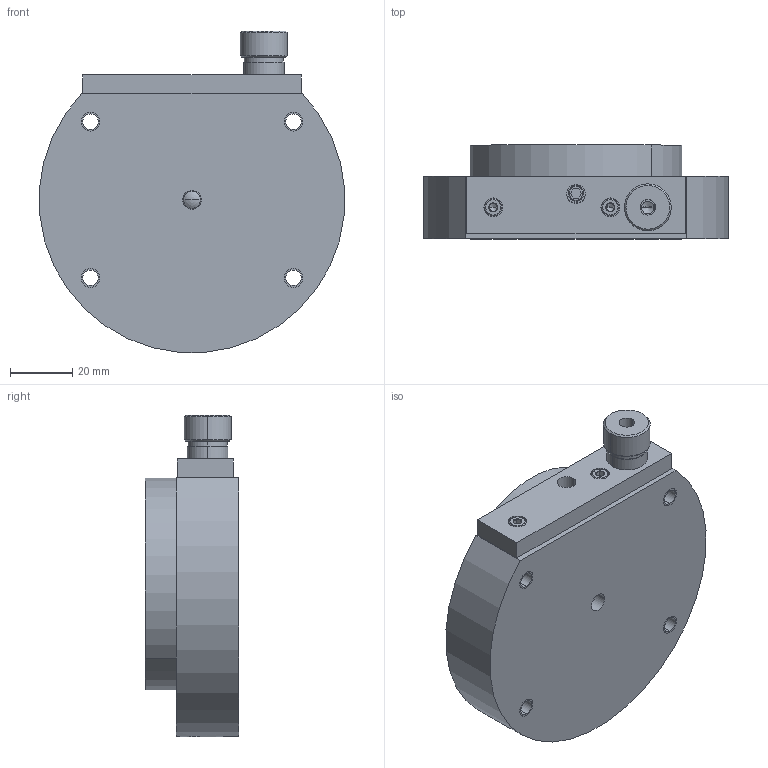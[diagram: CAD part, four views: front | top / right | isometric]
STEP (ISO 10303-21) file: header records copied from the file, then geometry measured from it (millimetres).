
FILE_DESCRIPTION((''),'2;1');
FILE_NAME('DREHMODUL_ASM','2006-12-05T',('Rudolf Kaufmann'),(''),'PRO/ENGINEER BY PARAMETRIC TECHNOLOGY CORPORATION, 2005451','PRO/ENGINEER BY PARAMETRIC TECHNOLOGY CORPORATION, 2005451','');
FILE_SCHEMA(('CONFIG_CONTROL_DESIGN'));
Length unit declared in the file: millimetre
Products named in the file (11): 406-200-00_GEHAEUSE; 406-100-00_ENDPLATTE; 406-800-00_SKALA; ZYL-SCHR_D912_M3X10; 408-001-00; 406-900-00_SCHEIBE; GEWINDESTIFT_BN24_M6X16; ZYL-SCHR_D912_M4X16; ZYL-STIFT_BN857_5X16; ZYL-STIFT_BN857_6X16; DREHMODUL_ASM
Assembly tree (14 placements, depth 2):
  DREHMODUL_ASM
    406-200-00_GEHAEUSE
    406-100-00_ENDPLATTE
    406-800-00_SKALA
    ZYL-SCHR_D912_M3X10  x2
    408-001-00
    406-900-00_SCHEIBE
    GEWINDESTIFT_BN24_M6X16  x2
    ZYL-SCHR_D912_M4X16  x2
    ZYL-STIFT_BN857_5X16  x2
    ZYL-STIFT_BN857_6X16
Bounding box: 97.73 x 30 x 103 mm (x, y, z)
Volume: 152710.5 mm3; surface area: 53151.3 mm2
Topology: 14 solids, 30 shells, 370 faces, 870 edges, 537 vertices
Faces by surface type: cylinder 140, plane 122, cone 72, torus 24, sphere 12
Entity records: 8169 total; most frequent: CARTESIAN_POINT 1571, DIRECTION 1496, ORIENTED_EDGE 1170, AXIS2_PLACEMENT_3D 617, EDGE_CURVE 608, VERTEX_POINT 391, EDGE_LOOP 328, CIRCLE 320
